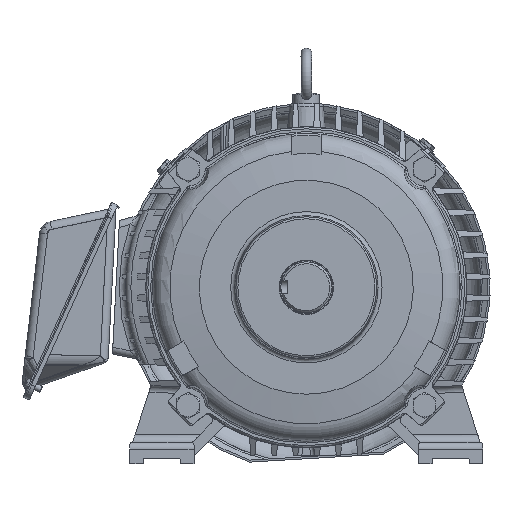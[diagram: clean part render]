
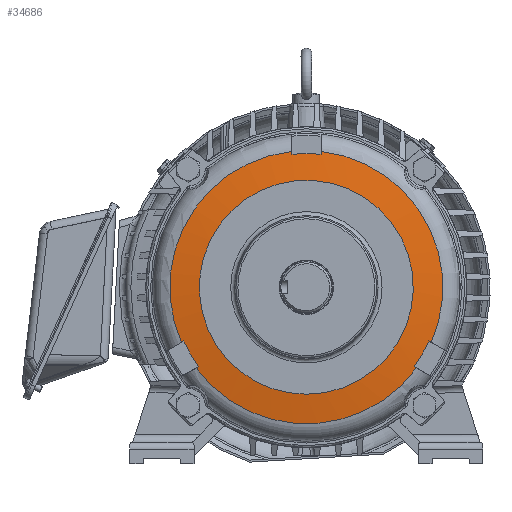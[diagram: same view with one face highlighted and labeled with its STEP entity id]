
A CAD part, front view. The second image highlights one B-rep face of the part: STEP entity #34686.
In plain terms, the highlighted conical face has half-angle 81.87 degrees and reference radius 80 mm.
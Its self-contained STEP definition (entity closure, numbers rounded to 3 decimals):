
#786=CONICAL_SURFACE('',#37171,80.,1.429);
#1412=B_SPLINE_CURVE_WITH_KNOTS('',3,(#58250,#58251,#58252,#58253),
 .UNSPECIFIED.,.F.,.F.,(4,4),(0.,1.),.PIECEWISE_BEZIER_KNOTS.);
#1413=B_SPLINE_CURVE_WITH_KNOTS('',3,(#58258,#58259,#58260,#58261),
 .UNSPECIFIED.,.F.,.F.,(4,4),(0.,1.),.PIECEWISE_BEZIER_KNOTS.);
#1414=B_SPLINE_CURVE_WITH_KNOTS('',3,(#58265,#58266,#58267,#58268),
 .UNSPECIFIED.,.F.,.F.,(4,4),(0.,1.),.PIECEWISE_BEZIER_KNOTS.);
#1415=B_SPLINE_CURVE_WITH_KNOTS('',3,(#58272,#58273,#58274,#58275),
 .UNSPECIFIED.,.F.,.F.,(4,4),(0.,1.),.PIECEWISE_BEZIER_KNOTS.);
#1416=B_SPLINE_CURVE_WITH_KNOTS('',3,(#58279,#58280,#58281,#58282),
 .UNSPECIFIED.,.F.,.F.,(4,4),(0.,1.),.PIECEWISE_BEZIER_KNOTS.);
#1417=B_SPLINE_CURVE_WITH_KNOTS('',3,(#58286,#58287,#58288,#58289),
 .UNSPECIFIED.,.F.,.F.,(4,4),(0.,1.),.PIECEWISE_BEZIER_KNOTS.);
#8651=ORIENTED_EDGE('',*,*,#16298,.F.);
#8652=ORIENTED_EDGE('',*,*,#16299,.T.);
#8653=ORIENTED_EDGE('',*,*,#16300,.F.);
#8654=ORIENTED_EDGE('',*,*,#16301,.F.);
#8655=ORIENTED_EDGE('',*,*,#16302,.F.);
#8656=ORIENTED_EDGE('',*,*,#16303,.T.);
#8657=ORIENTED_EDGE('',*,*,#16304,.F.);
#8658=ORIENTED_EDGE('',*,*,#16305,.F.);
#8659=ORIENTED_EDGE('',*,*,#16306,.F.);
#8660=ORIENTED_EDGE('',*,*,#16307,.T.);
#8661=ORIENTED_EDGE('',*,*,#16308,.F.);
#8662=ORIENTED_EDGE('',*,*,#16309,.F.);
#8663=ORIENTED_EDGE('',*,*,#16310,.F.);
#16298=EDGE_CURVE('',#20385,#20386,#1412,.T.);
#16299=EDGE_CURVE('',#20385,#20387,#22814,.T.);
#16300=EDGE_CURVE('',#20388,#20387,#1413,.T.);
#16301=EDGE_CURVE('',#20389,#20388,#22815,.T.);
#16302=EDGE_CURVE('',#20390,#20389,#1414,.T.);
#16303=EDGE_CURVE('',#20390,#20391,#22816,.T.);
#16304=EDGE_CURVE('',#20392,#20391,#1415,.T.);
#16305=EDGE_CURVE('',#20393,#20392,#22817,.T.);
#16306=EDGE_CURVE('',#20394,#20393,#1416,.T.);
#16307=EDGE_CURVE('',#20394,#20395,#22818,.T.);
#16308=EDGE_CURVE('',#20396,#20395,#1417,.T.);
#16309=EDGE_CURVE('',#20386,#20396,#22819,.T.);
#16310=EDGE_CURVE('',#20397,#20397,#22820,.T.);
#20385=VERTEX_POINT('',#58254);
#20386=VERTEX_POINT('',#58255);
#20387=VERTEX_POINT('',#58257);
#20388=VERTEX_POINT('',#58262);
#20389=VERTEX_POINT('',#58264);
#20390=VERTEX_POINT('',#58269);
#20391=VERTEX_POINT('',#58271);
#20392=VERTEX_POINT('',#58276);
#20393=VERTEX_POINT('',#58278);
#20394=VERTEX_POINT('',#58283);
#20395=VERTEX_POINT('',#58285);
#20396=VERTEX_POINT('',#58290);
#20397=VERTEX_POINT('',#58293);
#22814=CIRCLE('',#37172,102.121);
#22815=CIRCLE('',#37173,100.);
#22816=CIRCLE('',#37174,102.121);
#22817=CIRCLE('',#37175,100.);
#22818=CIRCLE('',#37176,102.121);
#22819=CIRCLE('',#37177,100.);
#22820=CIRCLE('',#37178,80.);
#24731=EDGE_LOOP('',(#8651,#8652,#8653,#8654,#8655,#8656,#8657,#8658,#8659,
#8660,#8661,#8662));
#24732=EDGE_LOOP('',(#8663));
#26933=FACE_BOUND('',#24731,.T.);
#26934=FACE_BOUND('',#24732,.T.);
#34686=ADVANCED_FACE('',(#26933,#26934),#786,.T.);
#37171=AXIS2_PLACEMENT_3D('',#58249,#42391,#42392);
#37172=AXIS2_PLACEMENT_3D('',#58256,#42393,#42394);
#37173=AXIS2_PLACEMENT_3D('',#58263,#42395,#42396);
#37174=AXIS2_PLACEMENT_3D('',#58270,#42397,#42398);
#37175=AXIS2_PLACEMENT_3D('',#58277,#42399,#42400);
#37176=AXIS2_PLACEMENT_3D('',#58284,#42401,#42402);
#37177=AXIS2_PLACEMENT_3D('',#58291,#42403,#42404);
#37178=AXIS2_PLACEMENT_3D('',#58292,#42405,#42406);
#42391=DIRECTION('',(0.,1.,0.));
#42392=DIRECTION('',(0.,0.,1.));
#42393=DIRECTION('',(0.,-1.,0.));
#42394=DIRECTION('',(0.,0.,-1.));
#42395=DIRECTION('',(0.,1.,0.));
#42396=DIRECTION('',(-0.5,0.,-0.866));
#42397=DIRECTION('',(0.,-1.,0.));
#42398=DIRECTION('',(0.,0.,-1.));
#42399=DIRECTION('',(0.,1.,0.));
#42400=DIRECTION('',(1.,0.,0.));
#42401=DIRECTION('',(0.,-1.,0.));
#42402=DIRECTION('',(0.,0.,-1.));
#42403=DIRECTION('',(0.,1.,0.));
#42404=DIRECTION('',(-0.5,0.,0.866));
#42405=DIRECTION('',(0.,-1.,0.));
#42406=DIRECTION('',(0.,0.,-1.));
#58249=CARTESIAN_POINT('',(0.,10.,0.));
#58250=CARTESIAN_POINT('',(-82.425,13.16,-60.29));
#58251=CARTESIAN_POINT('',(-81.809,13.059,-59.934));
#58252=CARTESIAN_POINT('',(-81.193,12.958,-59.579));
#58253=CARTESIAN_POINT('',(-80.577,12.857,-59.223));
#58254=CARTESIAN_POINT('',(-82.425,13.16,-60.29));
#58255=CARTESIAN_POINT('',(-80.577,12.857,-59.223));
#58256=CARTESIAN_POINT('',(0.,13.16,0.));
#58257=CARTESIAN_POINT('',(82.425,13.16,-60.29));
#58258=CARTESIAN_POINT('',(80.577,12.857,-59.223));
#58259=CARTESIAN_POINT('',(81.193,12.958,-59.579));
#58260=CARTESIAN_POINT('',(81.809,13.059,-59.934));
#58261=CARTESIAN_POINT('',(82.425,13.16,-60.29));
#58262=CARTESIAN_POINT('',(80.577,12.857,-59.223));
#58263=CARTESIAN_POINT('',(0.,12.857,0.));
#58264=CARTESIAN_POINT('',(91.577,12.857,-40.17));
#58265=CARTESIAN_POINT('',(93.425,13.16,-41.237));
#58266=CARTESIAN_POINT('',(92.809,13.059,-40.882));
#58267=CARTESIAN_POINT('',(92.193,12.958,-40.526));
#58268=CARTESIAN_POINT('',(91.577,12.857,-40.17));
#58269=CARTESIAN_POINT('',(93.425,13.16,-41.237));
#58270=CARTESIAN_POINT('',(0.,13.16,0.));
#58271=CARTESIAN_POINT('',(11.,13.16,101.527));
#58272=CARTESIAN_POINT('',(11.,12.857,99.393));
#58273=CARTESIAN_POINT('',(11.,12.958,100.104));
#58274=CARTESIAN_POINT('',(11.,13.059,100.816));
#58275=CARTESIAN_POINT('',(11.,13.16,101.527));
#58276=CARTESIAN_POINT('',(11.,12.857,99.393));
#58277=CARTESIAN_POINT('',(0.,12.857,0.));
#58278=CARTESIAN_POINT('',(-11.,12.857,99.393));
#58279=CARTESIAN_POINT('',(-11.,13.16,101.527));
#58280=CARTESIAN_POINT('',(-11.,13.059,100.816));
#58281=CARTESIAN_POINT('',(-11.,12.958,100.104));
#58282=CARTESIAN_POINT('',(-11.,12.857,99.393));
#58283=CARTESIAN_POINT('',(-11.,13.16,101.527));
#58284=CARTESIAN_POINT('',(0.,13.16,0.));
#58285=CARTESIAN_POINT('',(-93.425,13.16,-41.237));
#58286=CARTESIAN_POINT('',(-91.577,12.857,-40.17));
#58287=CARTESIAN_POINT('',(-92.193,12.958,-40.526));
#58288=CARTESIAN_POINT('',(-92.809,13.059,-40.882));
#58289=CARTESIAN_POINT('',(-93.425,13.16,-41.237));
#58290=CARTESIAN_POINT('',(-91.577,12.857,-40.17));
#58291=CARTESIAN_POINT('',(0.,12.857,0.));
#58292=CARTESIAN_POINT('',(0.,10.,0.));
#58293=CARTESIAN_POINT('',(0.,10.,-80.));
